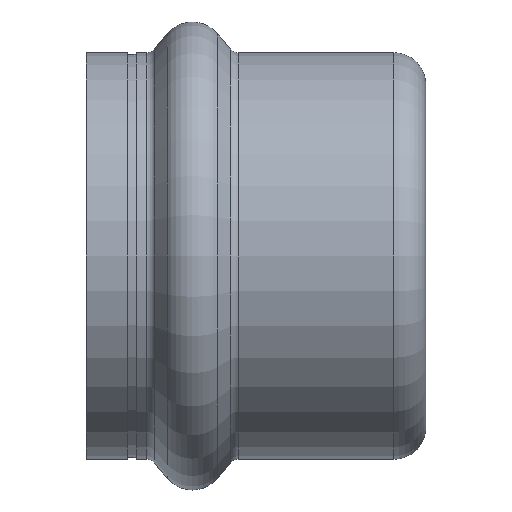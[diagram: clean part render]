
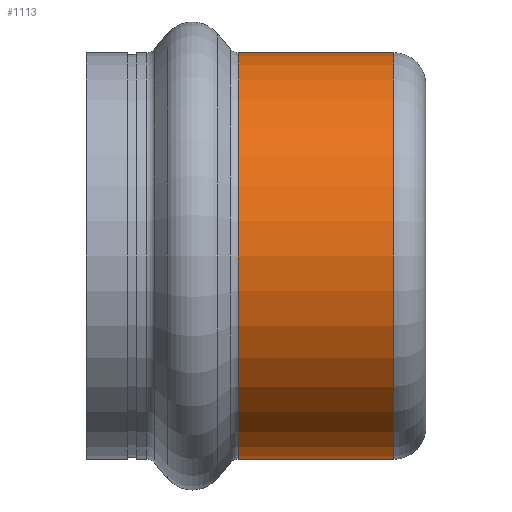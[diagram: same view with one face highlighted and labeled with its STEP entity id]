
A CAD part, front view. The second image highlights one B-rep face of the part: STEP entity #1113.
In plain terms, the highlighted cylindrical face has radius 19.15 mm (diameter 38.3 mm), a partial arc.
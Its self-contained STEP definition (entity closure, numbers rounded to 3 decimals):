
#13 = EDGE_CURVE ( 'NONE', #1094, #813, #668, .T. ) ;
#15 = FACE_OUTER_BOUND ( 'NONE', #374, .T. ) ;
#53 = AXIS2_PLACEMENT_3D ( 'NONE', #673, #665, #658 ) ;
#198 = DIRECTION ( 'NONE',  ( 0., 0., 1. ) ) ;
#227 = LINE ( 'NONE', #1309, #352 ) ;
#291 = CARTESIAN_POINT ( 'NONE',  ( 17.584, 0., -19.15 ) ) ;
#319 = EDGE_CURVE ( 'NONE', #856, #813, #227, .T. ) ;
#352 = VECTOR ( 'NONE', #651, 1000. ) ;
#374 = EDGE_LOOP ( 'NONE', ( #1212, #930, #708, #1145 ) ) ;
#377 = CARTESIAN_POINT ( 'NONE',  ( 17.584, 0., 0. ) ) ;
#401 = DIRECTION ( 'NONE',  ( 1., 0., 0. ) ) ;
#406 = DIRECTION ( 'NONE',  ( 0., 0., -1. ) ) ;
#408 = CARTESIAN_POINT ( 'NONE',  ( 32.25, 0., 19.15 ) ) ;
#433 = CIRCLE ( 'NONE', #53, 19.15 ) ;
#640 = CARTESIAN_POINT ( 'NONE',  ( 17.584, 0., 19.15 ) ) ;
#651 = DIRECTION ( 'NONE',  ( -1., 0., 0. ) ) ;
#658 = DIRECTION ( 'NONE',  ( 0., 0., 1. ) ) ;
#665 = DIRECTION ( 'NONE',  ( -1., 0., 0. ) ) ;
#668 = CIRCLE ( 'NONE', #1263, 19.15 ) ;
#673 = CARTESIAN_POINT ( 'NONE',  ( 32.25, 0., 0. ) ) ;
#681 = EDGE_CURVE ( 'NONE', #856, #774, #433, .T. ) ;
#708 = ORIENTED_EDGE ( 'NONE', *, *, #952, .T. ) ;
#744 = AXIS2_PLACEMENT_3D ( 'NONE', #1204, #1266, #198 ) ;
#760 = VECTOR ( 'NONE', #1232, 1000. ) ;
#774 = VERTEX_POINT ( 'NONE', #408 ) ;
#813 = VERTEX_POINT ( 'NONE', #291 ) ;
#856 = VERTEX_POINT ( 'NONE', #1097 ) ;
#930 = ORIENTED_EDGE ( 'NONE', *, *, #681, .T. ) ;
#952 = EDGE_CURVE ( 'NONE', #774, #1094, #1196, .T. ) ;
#1094 = VERTEX_POINT ( 'NONE', #640 ) ;
#1097 = CARTESIAN_POINT ( 'NONE',  ( 32.25, 0., -19.15 ) ) ;
#1113 = ADVANCED_FACE ( 'NONE', ( #15 ), #1249, .T. ) ;
#1145 = ORIENTED_EDGE ( 'NONE', *, *, #13, .T. ) ;
#1196 = LINE ( 'NONE', #1351, #760 ) ;
#1204 = CARTESIAN_POINT ( 'NONE',  ( -7.298, 0., 0. ) ) ;
#1212 = ORIENTED_EDGE ( 'NONE', *, *, #319, .F. ) ;
#1232 = DIRECTION ( 'NONE',  ( -1., 0., 0. ) ) ;
#1249 = CYLINDRICAL_SURFACE ( 'NONE', #744, 19.15 ) ;
#1263 = AXIS2_PLACEMENT_3D ( 'NONE', #377, #401, #406 ) ;
#1266 = DIRECTION ( 'NONE',  ( -1., 0., 0. ) ) ;
#1309 = CARTESIAN_POINT ( 'NONE',  ( -7.298, 0., -19.15 ) ) ;
#1351 = CARTESIAN_POINT ( 'NONE',  ( -7.298, 0., 19.15 ) ) ;
